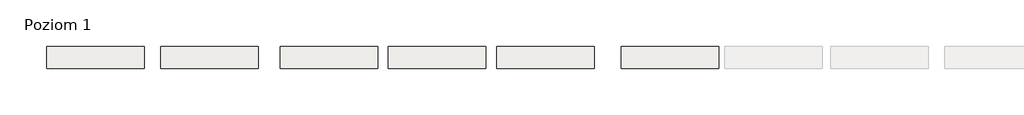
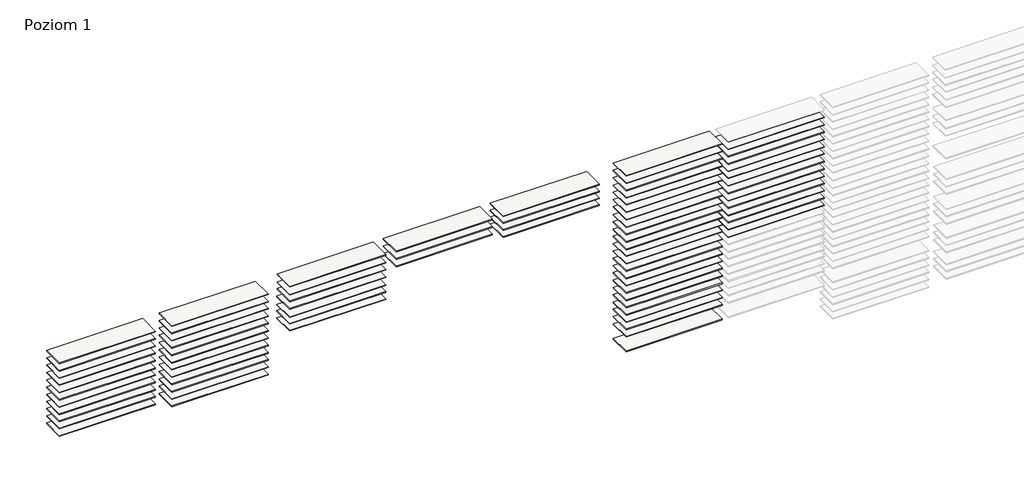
# One storey, part 1 of 2: 74 slabs.
"""IFC4 building model written with IfcOpenShell, lengths in millimetres."""

from ifc_helpers import new_model, si_unit, frame, origin, place, context, project, spatial, polyline, outline, extrude, element, save

model = new_model("IFC4")

# Units and contexts
model_context = context("Model", 3, world=origin())
ifc_project = project(units=[si_unit("LENGTHUNIT", "METRE", prefix="MILLI")], contexts=[model_context])

# Site, building, storey
site = spatial("IfcSite", under=ifc_project)
building = spatial("IfcBuilding", under=site)
storey = spatial("IfcBuildingStorey", under=building, Name="Poziom 1", Elevation=0.0)

# Slabs
placement = place(None, origin())
element("IfcSlab", 1, ObjectType="MultiFloor 60 dB WF4310-45/S-60", at=placement, inside=storey, context=model_context, shape_type="SweptSolid", body=[
    extrude(outline(polyline([(53213.9522812, 3636.696621), (53213.9522812, -63.303379), (37013.9522812, -63.303379), (37013.9522812, 3636.696621), (53213.9522812, 3636.696621)])), frame((0.0, 0.0, -67.0939621), z_axis=(0.0, 0.0, 1.0), x_axis=(1.0, 0.0, 0.0)), (0.0, 0.0, 1.0), 135.0),
])
element("IfcSlab", 2, ObjectType="MultiFloor 60 dB WF4310-45/T-25", at=placement, inside=storey, context=model_context, shape_type="SweptSolid", body=[
    extrude(outline(polyline([(53213.9522812, 3636.696621), (53213.9522812, -63.303379), (37013.9522812, -63.303379), (37013.9522812, 3636.696621), (53213.9522812, 3636.696621)])), frame((0.0, 0.0, -1454.1748739), z_axis=(0.0, 0.0, 1.0), x_axis=(1.0, 0.0, 0.0)), (0.0, 0.0, 1.0), 100.0),
])
element("IfcSlab", 3, ObjectType="MultiFloor 60 dB WF4320-25/S-60", at=placement, inside=storey, context=model_context, shape_type="SweptSolid", body=[
    extrude(outline(polyline([(53213.9522812, 3636.696621), (53213.9522812, -63.303379), (37013.9522812, -63.303379), (37013.9522812, 3636.696621), (53213.9522812, 3636.696621)])), frame((0.0, 0.0, -2682.2701411), z_axis=(0.0, 0.0, 1.0), x_axis=(1.0, 0.0, 0.0)), (0.0, 0.0, 1.0), 115.0),
])
element("IfcSlab", 4, ObjectType="MultiFloor 60 dB WF4320-45/S-60", at=placement, inside=storey, context=model_context, shape_type="SweptSolid", body=[
    extrude(outline(polyline([(53194.9535863, 3636.696621), (53194.9535863, -63.303379), (36994.9535863, -63.303379), (36994.9535863, 3636.696621), (53194.9535863, 3636.696621)])), frame((0.0, 0.0, -4015.0), z_axis=(0.0, 0.0, 1.0), x_axis=(1.0, 0.0, 0.0)), (0.0, 0.0, 1.0), 135.0),
])
element("IfcSlab", 5, ObjectType="MultiFloor 60 dB WF4320-45/T-25", at=placement, inside=storey, context=model_context, shape_type="SweptSolid", body=[
    extrude(outline(polyline([(53194.9535863, 3636.696621), (53194.9535863, -63.303379), (36994.9535863, -63.303379), (36994.9535863, 3636.696621), (53194.9535863, 3636.696621)])), frame((0.0, 0.0, -5450.0), z_axis=(0.0, 0.0, 1.0), x_axis=(1.0, 0.0, 0.0)), (0.0, 0.0, 1.0), 100.0),
])
element("IfcSlab", 6, ObjectType="MultiFloor 1000-40/S-40", at=placement, inside=storey, context=model_context, shape_type="SweptSolid", body=[
    extrude(outline(polyline([(109865.7935366, 3636.696621), (109865.7935366, -63.303379), (93665.7935366, -63.303379), (93665.7935366, 3636.696621), (109865.7935366, 3636.696621)])), frame((0.0, 0.0, -110.0), z_axis=(0.0, 0.0, 1.0), x_axis=(1.0, 0.0, 0.0)), (0.0, 0.0, 1.0), 110.0),
])
element("IfcSlab", 7, ObjectType="MultiFloor 1000-40/S-50", at=placement, inside=storey, context=model_context, shape_type="SweptSolid", body=[
    extrude(outline(polyline([(109865.7935366, 3636.696621), (109865.7935366, -63.303379), (93665.7935366, -63.303379), (93665.7935366, 3636.696621), (109865.7935366, 3636.696621)])), frame((0.0, 0.0, -1420.0), z_axis=(0.0, 0.0, 1.0), x_axis=(1.0, 0.0, 0.0)), (0.0, 0.0, 1.0), 120.0),
])
element("IfcSlab", 8, ObjectType="MultiFloor 1000-40/S-60", at=placement, inside=storey, context=model_context, shape_type="SweptSolid", body=[
    extrude(outline(polyline([(109865.7935366, 3636.696621), (109865.7935366, -63.303379), (93665.7935366, -63.303379), (93665.7935366, 3636.696621), (109865.7935366, 3636.696621)])), frame((0.0, 0.0, -2730.0), z_axis=(0.0, 0.0, 1.0), x_axis=(1.0, 0.0, 0.0)), (0.0, 0.0, 1.0), 130.0),
])
element("IfcSlab", 9, ObjectType="MultiFloor 1000-40/S-80", at=placement, inside=storey, context=model_context, shape_type="SweptSolid", body=[
    extrude(outline(polyline([(109865.7935366, 3636.696621), (109865.7935366, -63.303379), (93665.7935366, -63.303379), (93665.7935366, 3636.696621), (109865.7935366, 3636.696621)])), frame((0.0, 0.0, -4050.0), z_axis=(0.0, 0.0, 1.0), x_axis=(1.0, 0.0, 0.0)), (0.0, 0.0, 1.0), 150.0),
])
element("IfcSlab", 10, ObjectType="MultiFloor 1000-40/T-15", at=placement, inside=storey, context=model_context, shape_type="SweptSolid", body=[
    extrude(outline(polyline([(109865.7935366, 3636.696621), (109865.7935366, -63.303379), (93665.7935366, -63.303379), (93665.7935366, 3636.696621), (109865.7935366, 3636.696621)])), frame((0.0, 0.0, -5285.0), z_axis=(0.0, 0.0, 1.0), x_axis=(1.0, 0.0, 0.0)), (0.0, 0.0, 1.0), 85.0),
])
element("IfcSlab", 11, ObjectType="MultiFloor 1000-40/T-25", at=placement, inside=storey, context=model_context, shape_type="SweptSolid", body=[
    extrude(outline(polyline([(109865.7935366, 3636.696621), (109865.7935366, -63.303379), (93665.7935366, -63.303379), (93665.7935366, 3636.696621), (109865.7935366, 3636.696621)])), frame((0.0, 0.0, -6595.0), z_axis=(0.0, 0.0, 1.0), x_axis=(1.0, 0.0, 0.0)), (0.0, 0.0, 1.0), 95.0),
])
element("IfcSlab", 12, ObjectType="MultiFloor 1000-40/T-30", at=placement, inside=storey, context=model_context, shape_type="SweptSolid", body=[
    extrude(outline(polyline([(109865.7935366, 3636.696621), (109865.7935366, -63.303379), (93665.7935366, -63.303379), (93665.7935366, 3636.696621), (109865.7935366, 3636.696621)])), frame((0.0, 0.0, -7900.0), z_axis=(0.0, 0.0, 1.0), x_axis=(1.0, 0.0, 0.0)), (0.0, 0.0, 1.0), 100.0),
])
element("IfcSlab", 13, ObjectType="MultiFloor 1000-60/S-40", at=placement, inside=storey, context=model_context, shape_type="SweptSolid", body=[
    extrude(outline(polyline([(109865.7935366, 3636.696621), (109865.7935366, -63.303379), (93665.7935366, -63.303379), (93665.7935366, 3636.696621), (109865.7935366, 3636.696621)])), frame((0.0, 0.0, -9295.0), z_axis=(0.0, 0.0, 1.0), x_axis=(1.0, 0.0, 0.0)), (0.0, 0.0, 1.0), 130.0),
])
element("IfcSlab", 14, ObjectType="MultiFloor 1000-60/S-50", at=placement, inside=storey, context=model_context, shape_type="SweptSolid", body=[
    extrude(outline(polyline([(109865.7935366, 3636.696621), (109865.7935366, -63.303379), (93665.7935366, -63.303379), (93665.7935366, 3636.696621), (109865.7935366, 3636.696621)])), frame((0.0, 0.0, -10605.0), z_axis=(0.0, 0.0, 1.0), x_axis=(1.0, 0.0, 0.0)), (0.0, 0.0, 1.0), 140.0),
])
element("IfcSlab", 15, ObjectType="MultiFloor 1000-60/S-60", at=placement, inside=storey, context=model_context, shape_type="SweptSolid", body=[
    extrude(outline(polyline([(109865.7935366, 3636.696621), (109865.7935366, -63.303379), (93665.7935366, -63.303379), (93665.7935366, 3636.696621), (109865.7935366, 3636.696621)])), frame((0.0, 0.0, -11915.0), z_axis=(0.0, 0.0, 1.0), x_axis=(1.0, 0.0, 0.0)), (0.0, 0.0, 1.0), 150.0),
])
element("IfcSlab", 16, ObjectType="MultiFloor 1000-60/S-80", at=placement, inside=storey, context=model_context, shape_type="SweptSolid", body=[
    extrude(outline(polyline([(109865.7935366, 3636.696621), (109865.7935366, -63.303379), (93665.7935366, -63.303379), (93665.7935366, 3636.696621), (109865.7935366, 3636.696621)])), frame((0.0, 0.0, -13235.0), z_axis=(0.0, 0.0, 1.0), x_axis=(1.0, 0.0, 0.0)), (0.0, 0.0, 1.0), 170.0),
])
element("IfcSlab", 17, ObjectType="MultiFloor 1000-60/T-15", at=placement, inside=storey, context=model_context, shape_type="SweptSolid", body=[
    extrude(outline(polyline([(109865.7935366, 3636.696621), (109865.7935366, -63.303379), (93665.7935366, -63.303379), (93665.7935366, 3636.696621), (109865.7935366, 3636.696621)])), frame((0.0, 0.0, -14470.0), z_axis=(0.0, 0.0, 1.0), x_axis=(1.0, 0.0, 0.0)), (0.0, 0.0, 1.0), 105.0),
])
element("IfcSlab", 18, ObjectType="MultiFloor 1000-60/T-25", at=placement, inside=storey, context=model_context, shape_type="SweptSolid", body=[
    extrude(outline(polyline([(109865.7935366, 3636.696621), (109865.7935366, -63.303379), (93665.7935366, -63.303379), (93665.7935366, 3636.696621), (109865.7935366, 3636.696621)])), frame((0.0, 0.0, -15780.0), z_axis=(0.0, 0.0, 1.0), x_axis=(1.0, 0.0, 0.0)), (0.0, 0.0, 1.0), 115.0),
])
element("IfcSlab", 19, ObjectType="MultiFloor 1000-60/T-30", at=placement, inside=storey, context=model_context, shape_type="SweptSolid", body=[
    extrude(outline(polyline([(109865.7935366, 3636.696621), (109865.7935366, -63.303379), (93665.7935366, -63.303379), (93665.7935366, 3636.696621), (109865.7935366, 3636.696621)])), frame((0.0, 0.0, -17085.0), z_axis=(0.0, 0.0, 1.0), x_axis=(1.0, 0.0, 0.0)), (0.0, 0.0, 1.0), 120.0),
])
element("IfcSlab", 20, ObjectType="MultiFloor 1000-60/T-50", at=placement, inside=storey, context=model_context, shape_type="SweptSolid", body=[
    extrude(outline(polyline([(109865.7935366, 3636.696621), (109865.7935366, -63.303379), (93665.7935366, -63.303379), (93665.7935366, 3636.696621), (109865.7935366, 3636.696621)])), frame((0.0, 0.0, -18405.0), z_axis=(0.0, 0.0, 1.0), x_axis=(1.0, 0.0, 0.0)), (0.0, 0.0, 1.0), 140.0),
])
element("IfcSlab", 21, ObjectType="MultiFloor 1000-75/S-100", at=placement, inside=storey, context=model_context, shape_type="SweptSolid", body=[
    extrude(outline(polyline([(109865.7935366, 3636.696621), (109865.7935366, -63.303379), (93665.7935366, -63.303379), (93665.7935366, 3636.696621), (109865.7935366, 3636.696621)])), frame((0.0, 0.0, -24970.0), z_axis=(0.0, 0.0, 1.0), x_axis=(1.0, 0.0, 0.0)), (0.0, 0.0, 1.0), 205.0),
])
element("IfcSlab", 22, ObjectType="MultiFloor 1000-75/S-40", at=placement, inside=storey, context=model_context, shape_type="SweptSolid", body=[
    extrude(outline(polyline([(109865.7935366, 3636.696621), (109865.7935366, -63.303379), (93665.7935366, -63.303379), (93665.7935366, 3636.696621), (109865.7935366, 3636.696621)])), frame((0.0, 0.0, -19710.0), z_axis=(0.0, 0.0, 1.0), x_axis=(1.0, 0.0, 0.0)), (0.0, 0.0, 1.0), 145.0),
])
element("IfcSlab", 23, ObjectType="MultiFloor 1000-75/S-50", at=placement, inside=storey, context=model_context, shape_type="SweptSolid", body=[
    extrude(outline(polyline([(109865.7935366, 3636.696621), (109865.7935366, -63.303379), (93665.7935366, -63.303379), (93665.7935366, 3636.696621), (109865.7935366, 3636.696621)])), frame((0.0, 0.0, -21020.0), z_axis=(0.0, 0.0, 1.0), x_axis=(1.0, 0.0, 0.0)), (0.0, 0.0, 1.0), 155.0),
])
element("IfcSlab", 24, ObjectType="MultiFloor 1000-75/S-60", at=placement, inside=storey, context=model_context, shape_type="SweptSolid", body=[
    extrude(outline(polyline([(109865.7935366, 3636.696621), (109865.7935366, -63.303379), (93665.7935366, -63.303379), (93665.7935366, 3636.696621), (109865.7935366, 3636.696621)])), frame((0.0, 0.0, -22330.0), z_axis=(0.0, 0.0, 1.0), x_axis=(1.0, 0.0, 0.0)), (0.0, 0.0, 1.0), 165.0),
])
element("IfcSlab", 25, ObjectType="MultiFloor 1000-75/S-80", at=placement, inside=storey, context=model_context, shape_type="SweptSolid", body=[
    extrude(outline(polyline([(109865.7935366, 3636.696621), (109865.7935366, -63.303379), (93665.7935366, -63.303379), (93665.7935366, 3636.696621), (109865.7935366, 3636.696621)])), frame((0.0, 0.0, -23650.0), z_axis=(0.0, 0.0, 1.0), x_axis=(1.0, 0.0, 0.0)), (0.0, 0.0, 1.0), 185.0),
])
element("IfcSlab", 26, ObjectType="MultiFloor 1000-75/T-15", at=placement, inside=storey, context=model_context, shape_type="SweptSolid", body=[
    extrude(outline(polyline([(109865.7935366, 3636.696621), (109865.7935366, -63.303379), (93665.7935366, -63.303379), (93665.7935366, 3636.696621), (109865.7935366, 3636.696621)])), frame((0.0, 0.0, -26185.0), z_axis=(0.0, 0.0, 1.0), x_axis=(1.0, 0.0, 0.0)), (0.0, 0.0, 1.0), 120.0),
])
element("IfcSlab", 27, ObjectType="MultiFloor 1000-75/T-25", at=placement, inside=storey, context=model_context, shape_type="SweptSolid", body=[
    extrude(outline(polyline([(109865.7935366, 3636.696621), (109865.7935366, -63.303379), (93665.7935366, -63.303379), (93665.7935366, 3636.696621), (109865.7935366, 3636.696621)])), frame((0.0, 0.0, -27495.0), z_axis=(0.0, 0.0, 1.0), x_axis=(1.0, 0.0, 0.0)), (0.0, 0.0, 1.0), 130.0),
])
element("IfcSlab", 28, ObjectType="MultiFloor 1000-75/T-30", at=placement, inside=storey, context=model_context, shape_type="SweptSolid", body=[
    extrude(outline(polyline([(109865.7935366, 3636.696621), (109865.7935366, -63.303379), (93665.7935366, -63.303379), (93665.7935366, 3636.696621), (109865.7935366, 3636.696621)])), frame((0.0, 0.0, -28800.0), z_axis=(0.0, 0.0, 1.0), x_axis=(1.0, 0.0, 0.0)), (0.0, 0.0, 1.0), 135.0),
])
element("IfcSlab", 29, ObjectType="MultiFloor 1000-75/T-60", at=placement, inside=storey, context=model_context, shape_type="SweptSolid", body=[
    extrude(outline(polyline([(109865.7935366, 3636.696621), (109865.7935366, -63.303379), (93665.7935366, -63.303379), (93665.7935366, 3636.696621), (109865.7935366, 3636.696621)])), frame((0.0, 0.0, -31430.0), z_axis=(0.0, 0.0, 1.0), x_axis=(1.0, 0.0, 0.0)), (0.0, 0.0, 1.0), 165.0),
])
element("IfcSlab", 30, ObjectType="MultiFloor 60 dB 1000-40/S-60", at=placement, inside=storey, context=model_context, shape_type="SweptSolid", body=[
    extrude(outline(polyline([(14374.0372241, 3636.696621), (14374.0372241, -63.303379), (-1825.9627759, -63.303379), (-1825.9627759, 3636.696621), (14374.0372241, 3636.696621)])), frame((0.0, 0.0, -130.0), z_axis=(0.0, 0.0, 1.0), x_axis=(1.0, 0.0, 0.0)), (0.0, 0.0, 1.0), 130.0),
])
element("IfcSlab", 31, ObjectType="MultiFloor 60 dB 1000-40/S-80", at=placement, inside=storey, context=model_context, shape_type="SweptSolid", body=[
    extrude(outline(polyline([(14374.0372241, 3636.696621), (14374.0372241, -63.303379), (-1825.9627759, -63.303379), (-1825.9627759, 3636.696621), (14374.0372241, 3636.696621)])), frame((0.0, 0.0, -1450.0), z_axis=(0.0, 0.0, 1.0), x_axis=(1.0, 0.0, 0.0)), (0.0, 0.0, 1.0), 150.0),
])
element("IfcSlab", 32, ObjectType="MultiFloor 60 dB 1000-40/T-25", at=placement, inside=storey, context=model_context, shape_type="SweptSolid", body=[
    extrude(outline(polyline([(14374.0372241, 3636.696621), (14374.0372241, -63.303379), (-1825.9627759, -63.303379), (-1825.9627759, 3636.696621), (14374.0372241, 3636.696621)])), frame((0.0, 0.0, -2695.0), z_axis=(0.0, 0.0, 1.0), x_axis=(1.0, 0.0, 0.0)), (0.0, 0.0, 1.0), 95.0),
])
element("IfcSlab", 33, ObjectType="MultiFloor 60 dB 1000-40/T-50", at=placement, inside=storey, context=model_context, shape_type="SweptSolid", body=[
    extrude(outline(polyline([(14374.0372241, 3636.696621), (14374.0372241, -63.303379), (-1825.9627759, -63.303379), (-1825.9627759, 3636.696621), (14374.0372241, 3636.696621)])), frame((0.0, 0.0, -4020.0), z_axis=(0.0, 0.0, 1.0), x_axis=(1.0, 0.0, 0.0)), (0.0, 0.0, 1.0), 120.0),
])
element("IfcSlab", 34, ObjectType="MultiFloor 60 dB 1000-60/S-60", at=placement, inside=storey, context=model_context, shape_type="SweptSolid", body=[
    extrude(outline(polyline([(14374.0372241, 3636.696621), (14374.0372241, -63.303379), (-1825.9627759, -63.303379), (-1825.9627759, 3636.696621), (14374.0372241, 3636.696621)])), frame((0.0, 0.0, -5350.0), z_axis=(0.0, 0.0, 1.0), x_axis=(1.0, 0.0, 0.0)), (0.0, 0.0, 1.0), 150.0),
])
element("IfcSlab", 35, ObjectType="MultiFloor 60 dB 1000-60/S-80", at=placement, inside=storey, context=model_context, shape_type="SweptSolid", body=[
    extrude(outline(polyline([(14374.0372241, 3636.696621), (14374.0372241, -63.303379), (-1825.9627759, -63.303379), (-1825.9627759, 3636.696621), (14374.0372241, 3636.696621)])), frame((0.0, 0.0, -6670.0), z_axis=(0.0, 0.0, 1.0), x_axis=(1.0, 0.0, 0.0)), (0.0, 0.0, 1.0), 170.0),
])
element("IfcSlab", 36, ObjectType="MultiFloor 60 dB 1000-60/T-25", at=placement, inside=storey, context=model_context, shape_type="SweptSolid", body=[
    extrude(outline(polyline([(14374.0372241, 3636.696621), (14374.0372241, -63.303379), (-1825.9627759, -63.303379), (-1825.9627759, 3636.696621), (14374.0372241, 3636.696621)])), frame((0.0, 0.0, -7915.0), z_axis=(0.0, 0.0, 1.0), x_axis=(1.0, 0.0, 0.0)), (0.0, 0.0, 1.0), 115.0),
])
element("IfcSlab", 37, ObjectType="MultiFloor 60 dB 1000-75/S-60", at=placement, inside=storey, context=model_context, shape_type="SweptSolid", body=[
    extrude(outline(polyline([(14374.0372241, 3636.696621), (14374.0372241, -63.303379), (-1825.9627759, -63.303379), (-1825.9627759, 3636.696621), (14374.0372241, 3636.696621)])), frame((0.0, 0.0, -9205.0), z_axis=(0.0, 0.0, 1.0), x_axis=(1.0, 0.0, 0.0)), (0.0, 0.0, 1.0), 165.0),
])
element("IfcSlab", 38, ObjectType="MultiFloor 60 dB 1000-75/S-80", at=placement, inside=storey, context=model_context, shape_type="SweptSolid", body=[
    extrude(outline(polyline([(14374.0372241, 3636.696621), (14374.0372241, -63.303379), (-1825.9627759, -63.303379), (-1825.9627759, 3636.696621), (14374.0372241, 3636.696621)])), frame((0.0, 0.0, -10525.0), z_axis=(0.0, 0.0, 1.0), x_axis=(1.0, 0.0, 0.0)), (0.0, 0.0, 1.0), 185.0),
])
element("IfcSlab", 39, ObjectType="MultiFloor 60 dB 1000-75/T-25", at=placement, inside=storey, context=model_context, shape_type="SweptSolid", body=[
    extrude(outline(polyline([(14374.0372241, 3636.696621), (14374.0372241, -63.303379), (-1825.9627759, -63.303379), (-1825.9627759, 3636.696621), (14374.0372241, 3636.696621)])), frame((0.0, 0.0, -11770.0), z_axis=(0.0, 0.0, 1.0), x_axis=(1.0, 0.0, 0.0)), (0.0, 0.0, 1.0), 130.0),
])
element("IfcSlab", 40, ObjectType="MultiFloor 60 dB 1000-75/T-50", at=placement, inside=storey, context=model_context, shape_type="SweptSolid", body=[
    extrude(outline(polyline([(14374.0372241, 3636.696621), (14374.0372241, -63.303379), (-1825.9627759, -63.303379), (-1825.9627759, 3636.696621), (14374.0372241, 3636.696621)])), frame((0.0, 0.0, -13095.0), z_axis=(0.0, 0.0, 1.0), x_axis=(1.0, 0.0, 0.0)), (0.0, 0.0, 1.0), 155.0),
])
element("IfcSlab", 41, ObjectType="MultiFloor 60 dB FLOW-45/S-60", at=placement, inside=storey, context=model_context, shape_type="SweptSolid", body=[
    extrude(outline(polyline([(53194.9535863, 3636.696621), (53194.9535863, -63.303379), (36994.9535863, -63.303379), (36994.9535863, 3636.696621), (53194.9535863, 3636.696621)])), frame((0.0, 0.0, -6635.0), z_axis=(0.0, 0.0, 1.0), x_axis=(1.0, 0.0, 0.0)), (0.0, 0.0, 1.0), 135.0),
])
element("IfcSlab", 42, ObjectType="MultiFloor 60 dB FLOW-45/T-25", at=placement, inside=storey, context=model_context, shape_type="SweptSolid", body=[
    extrude(outline(polyline([(53194.9535863, 3636.696621), (53194.9535863, -63.303379), (36994.9535863, -63.303379), (36994.9535863, 3636.696621), (53194.9535863, 3636.696621)])), frame((0.0, 0.0, -7900.0), z_axis=(0.0, 0.0, 1.0), x_axis=(1.0, 0.0, 0.0)), (0.0, 0.0, 1.0), 100.0),
])
element("IfcSlab", 43, ObjectType="MultiFloor 60 dB RAPID-40/S-60", at=placement, inside=storey, context=model_context, shape_type="SweptSolid", body=[
    extrude(outline(polyline([(33374.0372241, 3636.696621), (33374.0372241, -63.303379), (17174.0372241, -63.303379), (17174.0372241, 3636.696621), (33374.0372241, 3636.696621)])), frame((0.0, 0.0, -130.0), z_axis=(0.0, 0.0, 1.0), x_axis=(1.0, 0.0, 0.0)), (0.0, 0.0, 1.0), 130.0),
])
element("IfcSlab", 44, ObjectType="MultiFloor 60 dB RAPID-40/S-80", at=placement, inside=storey, context=model_context, shape_type="SweptSolid", body=[
    extrude(outline(polyline([(33374.0372241, 3636.696621), (33374.0372241, -63.303379), (17174.0372241, -63.303379), (17174.0372241, 3636.696621), (33374.0372241, 3636.696621)])), frame((0.0, 0.0, -1450.0), z_axis=(0.0, 0.0, 1.0), x_axis=(1.0, 0.0, 0.0)), (0.0, 0.0, 1.0), 150.0),
])
element("IfcSlab", 45, ObjectType="MultiFloor 60 dB RAPID-40/T-25", at=placement, inside=storey, context=model_context, shape_type="SweptSolid", body=[
    extrude(outline(polyline([(33374.0372241, 3636.696621), (33374.0372241, -63.303379), (17174.0372241, -63.303379), (17174.0372241, 3636.696621), (33374.0372241, 3636.696621)])), frame((0.0, 0.0, -2695.0), z_axis=(0.0, 0.0, 1.0), x_axis=(1.0, 0.0, 0.0)), (0.0, 0.0, 1.0), 95.0),
])
element("IfcSlab", 46, ObjectType="MultiFloor 60 dB RAPID-40/T-50", at=placement, inside=storey, context=model_context, shape_type="SweptSolid", body=[
    extrude(outline(polyline([(33374.0372241, 3636.696621), (33374.0372241, -63.303379), (17174.0372241, -63.303379), (17174.0372241, 3636.696621), (33374.0372241, 3636.696621)])), frame((0.0, 0.0, -4020.0), z_axis=(0.0, 0.0, 1.0), x_axis=(1.0, 0.0, 0.0)), (0.0, 0.0, 1.0), 120.0),
])
element("IfcSlab", 47, ObjectType="MultiFloor 60 dB RAPID-60/S-60", at=placement, inside=storey, context=model_context, shape_type="SweptSolid", body=[
    extrude(outline(polyline([(33374.0372241, 3636.696621), (33374.0372241, -63.303379), (17174.0372241, -63.303379), (17174.0372241, 3636.696621), (33374.0372241, 3636.696621)])), frame((0.0, 0.0, -5350.0), z_axis=(0.0, 0.0, 1.0), x_axis=(1.0, 0.0, 0.0)), (0.0, 0.0, 1.0), 150.0),
])
element("IfcSlab", 48, ObjectType="MultiFloor 60 dB RAPID-60/S-80", at=placement, inside=storey, context=model_context, shape_type="SweptSolid", body=[
    extrude(outline(polyline([(33374.0372241, 3636.696621), (33374.0372241, -63.303379), (17174.0372241, -63.303379), (17174.0372241, 3636.696621), (33374.0372241, 3636.696621)])), frame((0.0, 0.0, -6670.0), z_axis=(0.0, 0.0, 1.0), x_axis=(1.0, 0.0, 0.0)), (0.0, 0.0, 1.0), 170.0),
])
element("IfcSlab", 49, ObjectType="MultiFloor 60 dB RAPID-60/T-25", at=placement, inside=storey, context=model_context, shape_type="SweptSolid", body=[
    extrude(outline(polyline([(33374.0372241, 3636.696621), (33374.0372241, -63.303379), (17174.0372241, -63.303379), (17174.0372241, 3636.696621), (33374.0372241, 3636.696621)])), frame((0.0, 0.0, -7915.0), z_axis=(0.0, 0.0, 1.0), x_axis=(1.0, 0.0, 0.0)), (0.0, 0.0, 1.0), 115.0),
])
element("IfcSlab", 50, ObjectType="MultiFloor 60 dB RAPID-60/T-50", at=placement, inside=storey, context=model_context, shape_type="SweptSolid", body=[
    extrude(outline(polyline([(33374.0372241, 3636.696621), (33374.0372241, -63.303379), (17174.0372241, -63.303379), (17174.0372241, 3636.696621), (33374.0372241, 3636.696621)])), frame((0.0, 0.0, -9240.0), z_axis=(0.0, 0.0, 1.0), x_axis=(1.0, 0.0, 0.0)), (0.0, 0.0, 1.0), 140.0),
])
element("IfcSlab", 51, ObjectType="MultiFloor 60 dB RAPID-75/S-60", at=placement, inside=storey, context=model_context, shape_type="SweptSolid", body=[
    extrude(outline(polyline([(33374.0372241, 3636.696621), (33374.0372241, -63.303379), (17174.0372241, -63.303379), (17174.0372241, 3636.696621), (33374.0372241, 3636.696621)])), frame((0.0, 0.0, -10565.0), z_axis=(0.0, 0.0, 1.0), x_axis=(1.0, 0.0, 0.0)), (0.0, 0.0, 1.0), 165.0),
])
element("IfcSlab", 52, ObjectType="MultiFloor 60 dB RAPID-75/S-80", at=placement, inside=storey, context=model_context, shape_type="SweptSolid", body=[
    extrude(outline(polyline([(33374.0372241, 3636.696621), (33374.0372241, -63.303379), (17174.0372241, -63.303379), (17174.0372241, 3636.696621), (33374.0372241, 3636.696621)])), frame((0.0, 0.0, -11885.0), z_axis=(0.0, 0.0, 1.0), x_axis=(1.0, 0.0, 0.0)), (0.0, 0.0, 1.0), 185.0),
])
element("IfcSlab", 53, ObjectType="MultiFloor 60 dB RAPID-75/T-25", at=placement, inside=storey, context=model_context, shape_type="SweptSolid", body=[
    extrude(outline(polyline([(33374.0372241, 3636.696621), (33374.0372241, -63.303379), (17174.0372241, -63.303379), (17174.0372241, 3636.696621), (33374.0372241, 3636.696621)])), frame((0.0, 0.0, -13130.0), z_axis=(0.0, 0.0, 1.0), x_axis=(1.0, 0.0, 0.0)), (0.0, 0.0, 1.0), 130.0),
])
element("IfcSlab", 54, ObjectType="MultiFloor 60 dB RAPID-75/T-50", at=placement, inside=storey, context=model_context, shape_type="SweptSolid", body=[
    extrude(outline(polyline([(33374.0372241, 3636.696621), (33374.0372241, -63.303379), (17174.0372241, -63.303379), (17174.0372241, 3636.696621), (33374.0372241, 3636.696621)])), frame((0.0, 0.0, -14455.0), z_axis=(0.0, 0.0, 1.0), x_axis=(1.0, 0.0, 0.0)), (0.0, 0.0, 1.0), 155.0),
])
element("IfcSlab", 55, ObjectType="MultiFloor 65 dB 1000-75/S-80", at=placement, inside=storey, context=model_context, shape_type="SweptSolid", body=[
    extrude(outline(polyline([(71130.5847312, 3636.696621), (71130.5847312, -63.303379), (54930.5847312, -63.303379), (54930.5847312, 3636.696621), (71130.5847312, 3636.696621)])), frame((0.0, 0.0, -55.0), z_axis=(0.0, 0.0, 1.0), x_axis=(1.0, 0.0, 0.0)), (0.0, 0.0, 1.0), 185.0),
])
element("IfcSlab", 56, ObjectType="MultiFloor 65 dB 1000-75/T-30", at=placement, inside=storey, context=model_context, shape_type="SweptSolid", body=[
    extrude(outline(polyline([(71130.5847312, 3636.696621), (71130.5847312, -63.303379), (54930.5847312, -63.303379), (54930.5847312, 3636.696621), (71130.5847312, 3636.696621)])), frame((0.0, 0.0, -1375.0), z_axis=(0.0, 0.0, 1.0), x_axis=(1.0, 0.0, 0.0)), (0.0, 0.0, 1.0), 135.0),
])
element("IfcSlab", 57, ObjectType="MultiFloor 65 dB 1000-75/T-50", at=placement, inside=storey, context=model_context, shape_type="SweptSolid", body=[
    extrude(outline(polyline([(71130.5847312, 3636.696621), (71130.5847312, -63.303379), (54930.5847312, -63.303379), (54930.5847312, 3636.696621), (71130.5847312, 3636.696621)])), frame((0.0, 0.0, -2715.0), z_axis=(0.0, 0.0, 1.0), x_axis=(1.0, 0.0, 0.0)), (0.0, 0.0, 1.0), 155.0),
])
element("IfcSlab", 58, ObjectType="MultiFloor 65 dB RAPID-75/S-60", at=placement, inside=storey, context=model_context, shape_type="SweptSolid", body=[
    extrude(outline(polyline([(89168.1436985, 3636.696621), (89168.1436985, -63.303379), (72968.1436985, -63.303379), (72968.1436985, 3636.696621), (89168.1436985, 3636.696621)])), frame((0.0, 0.0, -105.0), z_axis=(0.0, 0.0, 1.0), x_axis=(1.0, 0.0, 0.0)), (0.0, 0.0, 1.0), 165.0),
])
element("IfcSlab", 59, ObjectType="MultiFloor 65 dB RAPID-75/S-80", at=placement, inside=storey, context=model_context, shape_type="SweptSolid", body=[
    extrude(outline(polyline([(89168.1436985, 3636.696621), (89168.1436985, -63.303379), (72968.1436985, -63.303379), (72968.1436985, 3636.696621), (89168.1436985, 3636.696621)])), frame((0.0, 0.0, -1350.0), z_axis=(0.0, 0.0, 1.0), x_axis=(1.0, 0.0, 0.0)), (0.0, 0.0, 1.0), 185.0),
])
element("IfcSlab", 60, ObjectType="MultiFloor 65 dB RAPID-75/T-30", at=placement, inside=storey, context=model_context, shape_type="SweptSolid", body=[
    extrude(outline(polyline([(89168.1436985, 3636.696621), (89168.1436985, -63.303379), (72968.1436985, -63.303379), (72968.1436985, 3636.696621), (89168.1436985, 3636.696621)])), frame((0.0, 0.0, -2545.0), z_axis=(0.0, 0.0, 1.0), x_axis=(1.0, 0.0, 0.0)), (0.0, 0.0, 1.0), 135.0),
])
element("IfcSlab", 61, ObjectType="MultiFloor 65 dB RAPID-75/T-50", at=placement, inside=storey, context=model_context, shape_type="SweptSolid", body=[
    extrude(outline(polyline([(89168.1436985, 3636.696621), (89168.1436985, -63.303379), (72968.1436985, -63.303379), (72968.1436985, 3636.696621), (89168.1436985, 3636.696621)])), frame((0.0, 0.0, -3760.0), z_axis=(0.0, 0.0, 1.0), x_axis=(1.0, 0.0, 0.0)), (0.0, 0.0, 1.0), 155.0),
])
element("IfcSlab", 62, ObjectType="MultiFloor RAPID-40/S-50", at=placement, inside=storey, context=model_context, shape_type="SweptSolid", body=[
    extrude(outline(polyline([(127095.3998908, 3636.696621), (127095.3998908, -63.303379), (110895.3998908, -63.303379), (110895.3998908, 3636.696621), (127095.3998908, 3636.696621)])), frame((0.0, 0.0, -1420.0), z_axis=(0.0, 0.0, 1.0), x_axis=(1.0, 0.0, 0.0)), (0.0, 0.0, 1.0), 120.0),
])
element("IfcSlab", 63, ObjectType="MultiFloor RAPID-40/S-60", at=placement, inside=storey, context=model_context, shape_type="SweptSolid", body=[
    extrude(outline(polyline([(127095.3998908, 3636.696621), (127095.3998908, -63.303379), (110895.3998908, -63.303379), (110895.3998908, 3636.696621), (127095.3998908, 3636.696621)])), frame((0.0, 0.0, -2730.0), z_axis=(0.0, 0.0, 1.0), x_axis=(1.0, 0.0, 0.0)), (0.0, 0.0, 1.0), 130.0),
])
element("IfcSlab", 64, ObjectType="MultiFloor RAPID-40/S-80", at=placement, inside=storey, context=model_context, shape_type="SweptSolid", body=[
    extrude(outline(polyline([(127095.3998908, 3636.696621), (127095.3998908, -63.303379), (110895.3998908, -63.303379), (110895.3998908, 3636.696621), (127095.3998908, 3636.696621)])), frame((0.0, 0.0, -4050.0), z_axis=(0.0, 0.0, 1.0), x_axis=(1.0, 0.0, 0.0)), (0.0, 0.0, 1.0), 150.0),
])
element("IfcSlab", 65, ObjectType="MultiFloor RAPID-40/T-15", at=placement, inside=storey, context=model_context, shape_type="SweptSolid", body=[
    extrude(outline(polyline([(127095.3998908, 3636.696621), (127095.3998908, -63.303379), (110895.3998908, -63.303379), (110895.3998908, 3636.696621), (127095.3998908, 3636.696621)])), frame((0.0, 0.0, -5285.0), z_axis=(0.0, 0.0, 1.0), x_axis=(1.0, 0.0, 0.0)), (0.0, 0.0, 1.0), 85.0),
])
element("IfcSlab", 66, ObjectType="MultiFloor RAPID-40/T-25", at=placement, inside=storey, context=model_context, shape_type="SweptSolid", body=[
    extrude(outline(polyline([(127095.3998908, 3636.696621), (127095.3998908, -63.303379), (110895.3998908, -63.303379), (110895.3998908, 3636.696621), (127095.3998908, 3636.696621)])), frame((0.0, 0.0, -6595.0), z_axis=(0.0, 0.0, 1.0), x_axis=(1.0, 0.0, 0.0)), (0.0, 0.0, 1.0), 95.0),
])
element("IfcSlab", 67, ObjectType="MultiFloor RAPID-40/T-30", at=placement, inside=storey, context=model_context, shape_type="SweptSolid", body=[
    extrude(outline(polyline([(127095.3998908, 3636.696621), (127095.3998908, -63.303379), (110895.3998908, -63.303379), (110895.3998908, 3636.696621), (127095.3998908, 3636.696621)])), frame((0.0, 0.0, -7900.0), z_axis=(0.0, 0.0, 1.0), x_axis=(1.0, 0.0, 0.0)), (0.0, 0.0, 1.0), 100.0),
])
element("IfcSlab", 68, ObjectType="MultiFloor RAPID-60/S-40", at=placement, inside=storey, context=model_context, shape_type="SweptSolid", body=[
    extrude(outline(polyline([(127095.3998908, 3636.696621), (127095.3998908, -63.303379), (110895.3998908, -63.303379), (110895.3998908, 3636.696621), (127095.3998908, 3636.696621)])), frame((0.0, 0.0, -9295.0), z_axis=(0.0, 0.0, 1.0), x_axis=(1.0, 0.0, 0.0)), (0.0, 0.0, 1.0), 130.0),
])
element("IfcSlab", 69, ObjectType="MultiFloor RAPID-60/S-50", at=placement, inside=storey, context=model_context, shape_type="SweptSolid", body=[
    extrude(outline(polyline([(127095.3998908, 3636.696621), (127095.3998908, -63.303379), (110895.3998908, -63.303379), (110895.3998908, 3636.696621), (127095.3998908, 3636.696621)])), frame((0.0, 0.0, -10605.0), z_axis=(0.0, 0.0, 1.0), x_axis=(1.0, 0.0, 0.0)), (0.0, 0.0, 1.0), 140.0),
])
element("IfcSlab", 70, ObjectType="MultiFloor RAPID-60/S-60", at=placement, inside=storey, context=model_context, shape_type="SweptSolid", body=[
    extrude(outline(polyline([(127095.3998908, 3636.696621), (127095.3998908, -63.303379), (110895.3998908, -63.303379), (110895.3998908, 3636.696621), (127095.3998908, 3636.696621)])), frame((0.0, 0.0, -11915.0), z_axis=(0.0, 0.0, 1.0), x_axis=(1.0, 0.0, 0.0)), (0.0, 0.0, 1.0), 150.0),
])
element("IfcSlab", 71, ObjectType="MultiFloor RAPID-60/S-80", at=placement, inside=storey, context=model_context, shape_type="SweptSolid", body=[
    extrude(outline(polyline([(127095.3998908, 3636.696621), (127095.3998908, -63.303379), (110895.3998908, -63.303379), (110895.3998908, 3636.696621), (127095.3998908, 3636.696621)])), frame((0.0, 0.0, -13235.0), z_axis=(0.0, 0.0, 1.0), x_axis=(1.0, 0.0, 0.0)), (0.0, 0.0, 1.0), 170.0),
])
element("IfcSlab", 72, ObjectType="MultiFloor RAPID-60/T-15", at=placement, inside=storey, context=model_context, shape_type="SweptSolid", body=[
    extrude(outline(polyline([(127095.3998908, 3636.696621), (127095.3998908, -63.303379), (110895.3998908, -63.303379), (110895.3998908, 3636.696621), (127095.3998908, 3636.696621)])), frame((0.0, 0.0, -14470.0), z_axis=(0.0, 0.0, 1.0), x_axis=(1.0, 0.0, 0.0)), (0.0, 0.0, 1.0), 105.0),
])
element("IfcSlab", 73, ObjectType="MultiFloor RAPID-60/T-25", at=placement, inside=storey, context=model_context, shape_type="SweptSolid", body=[
    extrude(outline(polyline([(127095.3998908, 3636.696621), (127095.3998908, -63.303379), (110895.3998908, -63.303379), (110895.3998908, 3636.696621), (127095.3998908, 3636.696621)])), frame((0.0, 0.0, -15780.0), z_axis=(0.0, 0.0, 1.0), x_axis=(1.0, 0.0, 0.0)), (0.0, 0.0, 1.0), 115.0),
])
element("IfcSlab", 74, ObjectType="MultiFloor RAPID-60/T-30", at=placement, inside=storey, context=model_context, shape_type="SweptSolid", body=[
    extrude(outline(polyline([(127095.3998908, 3636.696621), (127095.3998908, -63.303379), (110895.3998908, -63.303379), (110895.3998908, 3636.696621), (127095.3998908, 3636.696621)])), frame((0.0, 0.0, -17085.0), z_axis=(0.0, 0.0, 1.0), x_axis=(1.0, 0.0, 0.0)), (0.0, 0.0, 1.0), 120.0),
])

save(model, "model.ifc")
